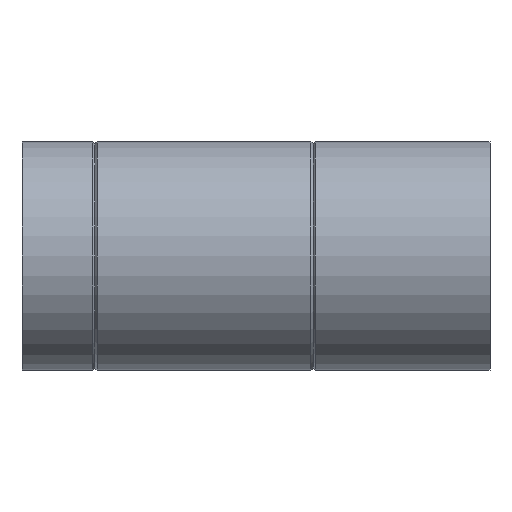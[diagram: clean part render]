
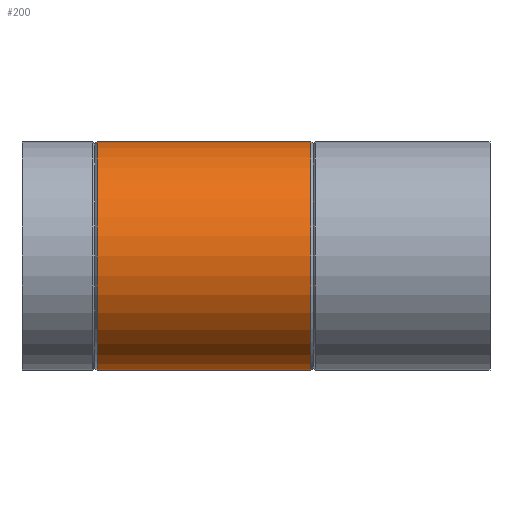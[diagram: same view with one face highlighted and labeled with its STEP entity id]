
A CAD part, left-side view. The second image highlights one B-rep face of the part: STEP entity #200.
In plain terms, the highlighted cylindrical face has radius 55 mm (diameter 110 mm), a full revolution.
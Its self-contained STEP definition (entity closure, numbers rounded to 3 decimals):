
#15=B_SPLINE_CURVE_WITH_KNOTS($,3,(#325,#326,#327,#328,#329,#330,#331,#332,
#333,#334,#335,#336,#337,#338,#339,#340,#341,#342,#343,#344,#345,#346,#347,
#348,#349,#350,#351,#352,#353,#354,#355,#356,#357,#358,#359,#360,#361,#362,
#363,#364,#365,#366,#367,#368,#369,#370,#371,#372,#373,#374,#375,#376,#377,
#378,#379,#380,#381,#382,#383,#384,#385,#386,#387,#388,#389,#390),
 .UNSPECIFIED.,.T.,.F.,(4,2,2,2,2,2,2,2,2,2,2,2,2,2,2,2,2,2,2,2,2,2,2,2,
2,2,2,2,2,2,2,2,4),(0.,0.748,1.497,2.245,
2.993,3.726,4.46,5.193,5.926,
6.659,7.392,8.125,8.859,9.607,
10.355,11.104,11.852,12.588,13.325,
14.061,14.798,15.53,16.263,16.996,
17.728,18.461,19.194,19.926,20.659,
21.395,22.132,22.868,23.605),
 .UNSPECIFIED.);
#17=CYLINDRICAL_SURFACE($,#222,55.);
#26=FACE_BOUND($,#63,.T.);
#27=FACE_BOUND($,#64,.T.);
#48=FACE_OUTER_BOUND($,#62,.T.);
#62=EDGE_LOOP($,(#145));
#63=EDGE_LOOP($,(#146));
#64=EDGE_LOOP($,(#147));
#94=CIRCLE($,#221,55.);
#95=CIRCLE($,#223,55.);
#109=VERTEX_POINT($,#319);
#110=VERTEX_POINT($,#322);
#111=VERTEX_POINT($,#324);
#126=EDGE_CURVE($,#109,#109,#94,.T.);
#127=EDGE_CURVE($,#110,#110,#95,.T.);
#128=EDGE_CURVE($,#111,#111,#15,.T.);
#145=ORIENTED_EDGE($,*,*,#127,.T.);
#146=ORIENTED_EDGE($,*,*,#128,.T.);
#147=ORIENTED_EDGE($,*,*,#126,.T.);
#200=ADVANCED_FACE($,(#48,#26,#27),#17,.T.);
#221=AXIS2_PLACEMENT_3D($,#320,#258,#259);
#222=AXIS2_PLACEMENT_3D($,#321,#260,#261);
#223=AXIS2_PLACEMENT_3D($,#323,#262,#263);
#258=DIRECTION('center_axis',(0.,-1.,0.));
#259=DIRECTION('ref_axis',(1.,0.,0.));
#260=DIRECTION('center_axis',(0.,1.,0.));
#261=DIRECTION('ref_axis',(1.,0.,0.));
#262=DIRECTION('center_axis',(0.,1.,0.));
#263=DIRECTION('ref_axis',(1.,0.,0.));
#319=CARTESIAN_POINT('',(55.,188.9,0.));
#320=CARTESIAN_POINT('Origin',(0.,188.9,0.));
#321=CARTESIAN_POINT('Origin',(0.,0.,0.));
#322=CARTESIAN_POINT('',(-55.,86.1,0.));
#323=CARTESIAN_POINT('Origin',(0.,86.1,0.));
#324=CARTESIAN_POINT('',(40.234,136.054,37.5));
#325=CARTESIAN_POINT('Ctrl Pts',(40.234,136.054,37.5));
#326=CARTESIAN_POINT('Ctrl Pts',(40.234,138.548,37.5));
#327=CARTESIAN_POINT('Ctrl Pts',(40.472,141.076,37.248));
#328=CARTESIAN_POINT('Ctrl Pts',(41.373,146.03,36.245));
#329=CARTESIAN_POINT('Ctrl Pts',(42.032,148.457,35.494));
#330=CARTESIAN_POINT('Ctrl Pts',(43.596,153.074,33.555));
#331=CARTESIAN_POINT('Ctrl Pts',(44.501,155.269,32.364));
#332=CARTESIAN_POINT('Ctrl Pts',(46.361,159.325,29.637));
#333=CARTESIAN_POINT('Ctrl Pts',(47.317,161.187,28.1));
#334=CARTESIAN_POINT('Ctrl Pts',(49.095,164.462,24.86));
#335=CARTESIAN_POINT('Ctrl Pts',(49.988,166.004,23.041));
#336=CARTESIAN_POINT('Ctrl Pts',(51.642,168.757,19.046));
#337=CARTESIAN_POINT('Ctrl Pts',(52.403,169.968,16.869));
#338=CARTESIAN_POINT('Ctrl Pts',(53.664,171.937,12.28));
#339=CARTESIAN_POINT('Ctrl Pts',(54.166,172.698,9.861));
#340=CARTESIAN_POINT('Ctrl Pts',(54.834,173.706,4.944));
#341=CARTESIAN_POINT('Ctrl Pts',(55.,173.953,2.444));
#342=CARTESIAN_POINT('Ctrl Pts',(55.,173.953,-2.444));
#343=CARTESIAN_POINT('Ctrl Pts',(54.834,173.706,-4.944));
#344=CARTESIAN_POINT('Ctrl Pts',(54.166,172.698,-9.861));
#345=CARTESIAN_POINT('Ctrl Pts',(53.664,171.937,-12.28));
#346=CARTESIAN_POINT('Ctrl Pts',(52.403,169.968,-16.869));
#347=CARTESIAN_POINT('Ctrl Pts',(51.642,168.757,-19.046));
#348=CARTESIAN_POINT('Ctrl Pts',(49.988,166.004,-23.041));
#349=CARTESIAN_POINT('Ctrl Pts',(49.095,164.462,-24.86));
#350=CARTESIAN_POINT('Ctrl Pts',(47.317,161.187,-28.1));
#351=CARTESIAN_POINT('Ctrl Pts',(46.361,159.325,-29.637));
#352=CARTESIAN_POINT('Ctrl Pts',(44.501,155.269,-32.364));
#353=CARTESIAN_POINT('Ctrl Pts',(43.596,153.074,-33.555));
#354=CARTESIAN_POINT('Ctrl Pts',(42.032,148.457,-35.494));
#355=CARTESIAN_POINT('Ctrl Pts',(41.373,146.03,-36.245));
#356=CARTESIAN_POINT('Ctrl Pts',(40.472,141.076,-37.248));
#357=CARTESIAN_POINT('Ctrl Pts',(40.234,138.548,-37.5));
#358=CARTESIAN_POINT('Ctrl Pts',(40.234,133.599,-37.5));
#359=CARTESIAN_POINT('Ctrl Pts',(40.465,131.108,-37.256));
#360=CARTESIAN_POINT('Ctrl Pts',(41.351,126.233,-36.27));
#361=CARTESIAN_POINT('Ctrl Pts',(42.002,123.846,-35.53));
#362=CARTESIAN_POINT('Ctrl Pts',(43.554,119.317,-33.609));
#363=CARTESIAN_POINT('Ctrl Pts',(44.454,117.169,-32.427));
#364=CARTESIAN_POINT('Ctrl Pts',(46.309,113.207,-29.719));
#365=CARTESIAN_POINT('Ctrl Pts',(47.262,111.393,-28.191));
#366=CARTESIAN_POINT('Ctrl Pts',(49.05,108.186,-24.951));
#367=CARTESIAN_POINT('Ctrl Pts',(49.953,106.672,-23.118));
#368=CARTESIAN_POINT('Ctrl Pts',(51.624,103.976,-19.097));
#369=CARTESIAN_POINT('Ctrl Pts',(52.391,102.795,-16.908));
#370=CARTESIAN_POINT('Ctrl Pts',(53.661,100.878,-12.298));
#371=CARTESIAN_POINT('Ctrl Pts',(54.164,100.141,-9.871));
#372=CARTESIAN_POINT('Ctrl Pts',(54.834,99.166,-4.944));
#373=CARTESIAN_POINT('Ctrl Pts',(55.,98.927,-2.442));
#374=CARTESIAN_POINT('Ctrl Pts',(55.,98.927,2.442));
#375=CARTESIAN_POINT('Ctrl Pts',(54.834,99.166,4.944));
#376=CARTESIAN_POINT('Ctrl Pts',(54.164,100.141,9.871));
#377=CARTESIAN_POINT('Ctrl Pts',(53.661,100.878,12.298));
#378=CARTESIAN_POINT('Ctrl Pts',(52.391,102.795,16.908));
#379=CARTESIAN_POINT('Ctrl Pts',(51.624,103.976,19.097));
#380=CARTESIAN_POINT('Ctrl Pts',(49.953,106.672,23.118));
#381=CARTESIAN_POINT('Ctrl Pts',(49.05,108.186,24.951));
#382=CARTESIAN_POINT('Ctrl Pts',(47.262,111.393,28.191));
#383=CARTESIAN_POINT('Ctrl Pts',(46.309,113.207,29.719));
#384=CARTESIAN_POINT('Ctrl Pts',(44.454,117.169,32.427));
#385=CARTESIAN_POINT('Ctrl Pts',(43.554,119.317,33.609));
#386=CARTESIAN_POINT('Ctrl Pts',(42.002,123.846,35.53));
#387=CARTESIAN_POINT('Ctrl Pts',(41.351,126.233,36.27));
#388=CARTESIAN_POINT('Ctrl Pts',(40.465,131.108,37.256));
#389=CARTESIAN_POINT('Ctrl Pts',(40.234,133.599,37.5));
#390=CARTESIAN_POINT('Ctrl Pts',(40.234,136.054,37.5));
